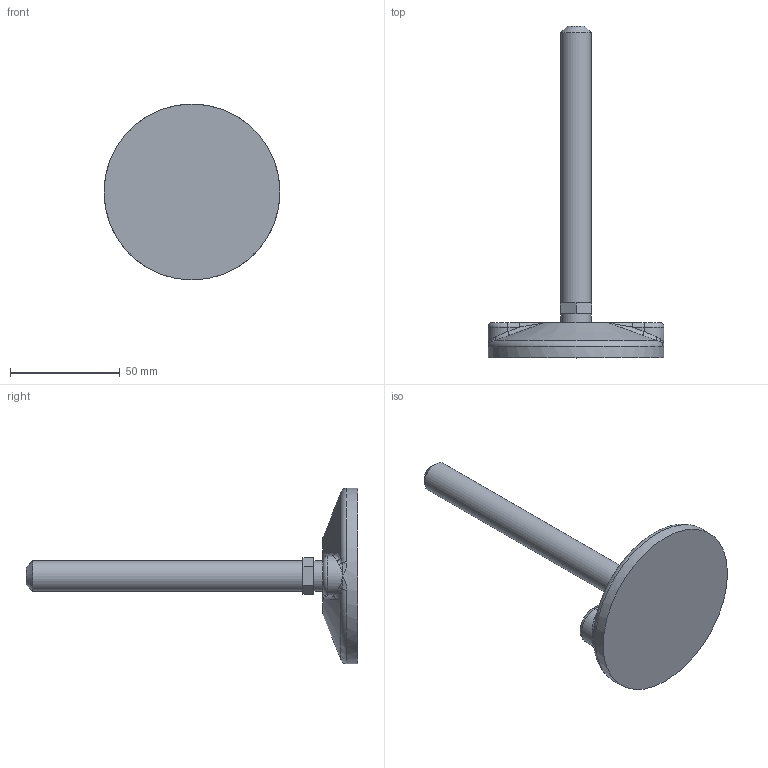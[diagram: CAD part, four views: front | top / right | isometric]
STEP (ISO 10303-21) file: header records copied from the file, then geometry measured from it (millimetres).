
FILE_DESCRIPTION (( 'STEP AP214' ), '1' );
FILE_NAME ('F21806.step', '2024-12-03T16:15:44', ( '' ), ( '' ), 'SwSTEP 2.0', 'SolidWorks 2023', '' );
FILE_SCHEMA (( 'AUTOMOTIVE_DESIGN' ));
Length unit declared in the file: millimetre
Products named in the file (1): F21806
Bounding box: 80 x 151 x 80 mm (x, y, z)
Volume: 83497.6 mm3; surface area: 18361 mm2
Topology: 1 solids, 1 shells, 57 faces, 133 edges, 73 vertices
Faces by surface type: bspline 24, plane 15, cylinder 9, torus 6, cone 3
Full cylindrical faces by diameter (mm): 14 x2, 80 x1
Entity records: 2395 total; most frequent: CARTESIAN_POINT 1298, ORIENTED_EDGE 240, DIRECTION 190, EDGE_CURVE 120, AXIS2_PLACEMENT_3D 80, VERTEX_POINT 72, EDGE_LOOP 64, FACE_OUTER_BOUND 60
